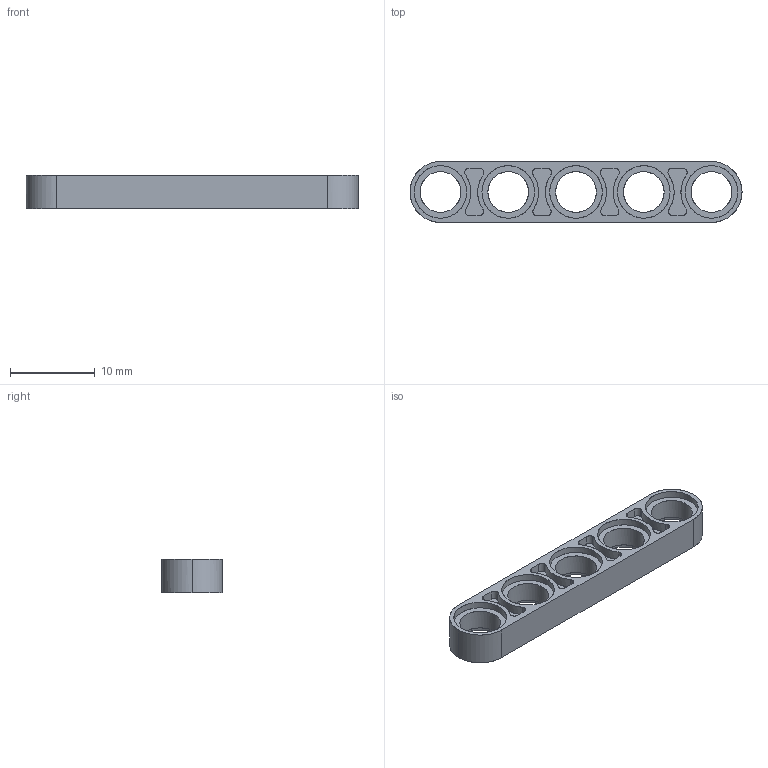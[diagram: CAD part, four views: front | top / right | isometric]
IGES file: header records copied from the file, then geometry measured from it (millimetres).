
Start section: C
Global section: file name: Ye_4503425_AVV.iges; native system: By Siemens PLM Incorporated; preprocessor: XPlus GENERIC/IGES 26.1.183; author: Author; organization: Title; date: 20250722.000918; units: millimetre
Bounding box: 39.2 x 7.2 x 4 mm (x, y, z)
Surface area: 1180.1 mm2 (no closed solid volume)
Topology: 0 solids, 0 shells, 129 faces, 714 edges, 714 vertices
Faces by surface type: bspline 129
